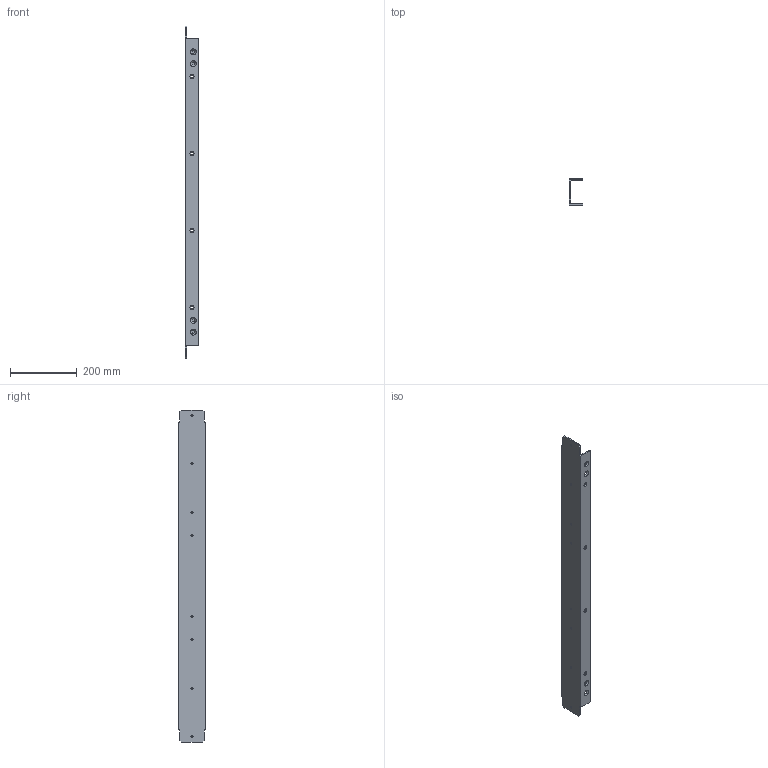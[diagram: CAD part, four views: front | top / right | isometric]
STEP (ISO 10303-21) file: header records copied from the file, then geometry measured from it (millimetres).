
FILE_DESCRIPTION (( 'STEP AP214' ), '1' );
FILE_NAME ('ÂØÀÅ.746222.010 Øâåëëåð.STEP', '2024-04-17T13:47:36', ( '' ), ( '' ), 'SwSTEP 2.0', 'SolidWorks 2019', '' );
FILE_SCHEMA (( 'AUTOMOTIVE_DESIGN' ));
Length unit declared in the file: millimetre
Products named in the file (1): ÂØÀÅ.746222.010 Øâåëëåð
Bounding box: 40 x 80 x 992 mm (x, y, z)
Volume: 583513.5 mm3; surface area: 294812.8 mm2
Topology: 1 solids, 1 shells, 104 faces, 274 edges, 172 vertices
Faces by surface type: cylinder 42, cone 40, plane 22
Entity records: 3540 total; most frequent: DIRECTION 616, CARTESIAN_POINT 551, ORIENTED_EDGE 548, EDGE_CURVE 274, AXIS2_PLACEMENT_3D 237, VERTEX_POINT 172, EDGE_LOOP 152, LINE 142
